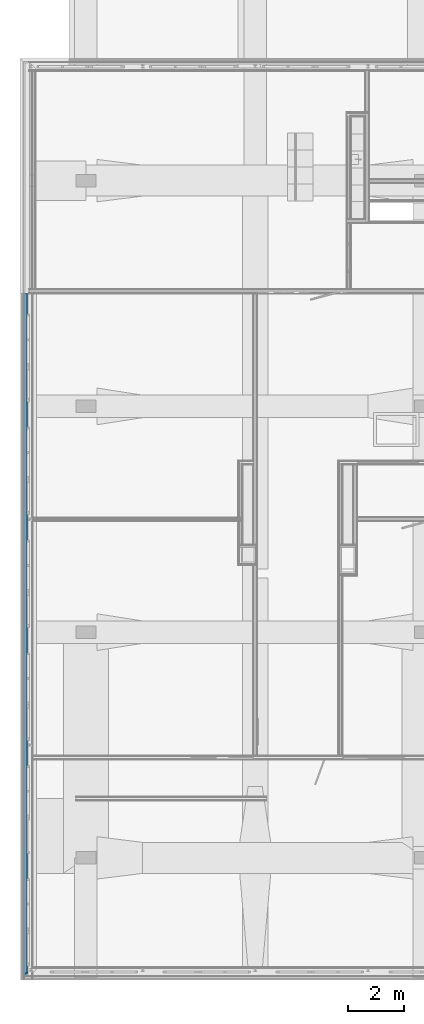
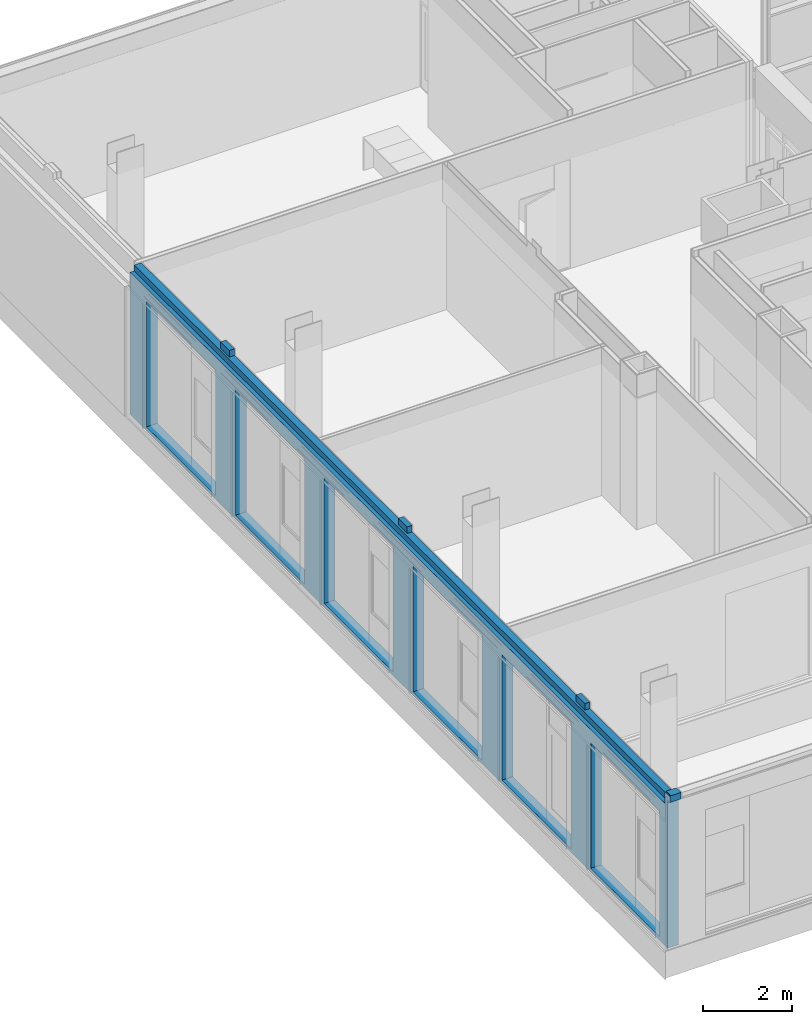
# One storey, part 37 of 94: 1 building element part, 12 openings, 1 element without a shape of its own.
"""IFC2X3 building model written with IfcOpenShell, lengths in millimetres."""

from ifc_helpers import new_model, entity, si_unit, converted_unit, derived_unit, money_unit, direction, frame, origin_with_axes, place, context, subcontext, project, spatial, faceted_brep, material, type_object, element, aggregate, save


model = new_model("IFC2X3")

# Units and contexts
model_context = context("Model", 3, precision=0.01, world=origin_with_axes(), true_north=direction((0.0, 1.0)))
body_context = subcontext(model_context, "Body", "Model", "MODEL_VIEW")
ifc_project = project(units=[si_unit("LENGTHUNIT", "METRE", prefix="MILLI"), si_unit("AREAUNIT", "SQUARE_METRE"), si_unit("VOLUMEUNIT", "CUBIC_METRE"), converted_unit("PLANEANGLEUNIT", "DEGREE", entity("IfcPlaneAngleMeasure", 0.0174532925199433), si_unit("PLANEANGLEUNIT", "RADIAN"), dimensions=[0, 0, 0, 0, 0, 0, 0]), money_unit("EUR"), converted_unit("TIMEUNIT", "Year", entity("IfcTimeMeasure", 31557600.0), si_unit("TIMEUNIT", "SECOND"), dimensions=[0, 0, 1, 0, 0, 0, 0]), si_unit("MASSUNIT", "GRAM", prefix="KILO"), si_unit("THERMODYNAMICTEMPERATUREUNIT", "DEGREE_CELSIUS"), si_unit("LUMINOUSINTENSITYUNIT", "LUMEN"), si_unit("ENERGYUNIT", "JOULE", prefix="MEGA"), derived_unit("THERMALCONDUCTANCEUNIT", [(si_unit("POWERUNIT", "WATT"), 1), (si_unit("LENGTHUNIT", "METRE"), -1), (si_unit("THERMODYNAMICTEMPERATUREUNIT", "KELVIN"), -1)]), derived_unit("SPECIFICHEATCAPACITYUNIT", [(si_unit("ENERGYUNIT", "JOULE"), 1), (si_unit("MASSUNIT", "GRAM", prefix="KILO"), -1), (si_unit("THERMODYNAMICTEMPERATUREUNIT", "KELVIN"), -1)]), derived_unit("MASSDENSITYUNIT", [(si_unit("MASSUNIT", "GRAM", prefix="KILO"), 1), (si_unit("VOLUMEUNIT", "CUBIC_METRE"), -1)])], contexts=[model_context])

# Site, building, storey
site_placement = place(None, origin_with_axes())
site = spatial("IfcSite", under=ifc_project, at=site_placement, Name="<site naam>", CompositionType="ELEMENT")
building_placement = place(site_placement, origin_with_axes())
building = spatial("IfcBuilding", under=site, at=building_placement, Name="<Naam gebouw>", CompositionType="ELEMENT")
storey_placement = place(building_placement, frame((0.0, 0.0, 4250.0), z_axis=(0.0, 0.0, 1.0), x_axis=(1.0, 0.0, 0.0)))
storey = spatial("IfcBuildingStorey", under=building, at=storey_placement, Name="01 1e verdieping", CompositionType="ELEMENT", Elevation=4250.0)

# Wall, openings, building element part
wall_type = type_object("IfcWallType", Name="HSB_285 gevelbeplating 420", PredefinedType="NOTDEFINED")
wall_placement = place(storey_placement, frame((-12297.99999999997, 12000.00000000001, 0.0), z_axis=(0.0, 0.0, 1.0), x_axis=(0.0, -1.0, 0.0)))
wall = element("IfcWall", 1, at=wall_placement, inside=storey, type_object=wall_type, Name="21_Binnenwand_HSB_285")
opening_1_placement = place(wall_placement, frame((21651.5, 0.0, 99.99999999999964), z_axis=(0.0, 0.0, 1.0), x_axis=(1.0, 0.0, 0.0)))
element("IfcOpeningElement", 2, at=opening_1_placement, cuts=wall, Name="21_BU-A-12a_305", context=body_context, shape_type="Brep", body=[
    faceted_brep([(918.4999999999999, 212.9999999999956, 3450.0), (-918.4999999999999, 212.9999999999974, 3450.0), (-918.4999999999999, -0.9999999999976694, 3450.0), (918.4999999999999, -0.9999999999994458, 3450.0), (918.4999999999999, 421.0000000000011, 3450.0), (-918.4999999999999, 421.000000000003, 3450.0), (-918.4999999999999, 212.9999999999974, 0.0), (-918.4999999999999, -0.9999999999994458, 0.0), (918.4999999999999, -0.9999999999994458, 0.0), (918.4999999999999, 212.9999999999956, 0.0), (918.4999999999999, 421.0000000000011, 0.0), (-918.4999999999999, 421.000000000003, 0.0)], [[[0, 1, 2, 3]], [[1, 0, 4, 5]], [[1, 6, 7, 2]], [[2, 7, 8, 3]], [[9, 0, 3, 8]], [[0, 9, 10, 4]], [[4, 10, 11, 5]], [[6, 1, 5, 11]], [[6, 9, 8, 7]], [[9, 6, 11, 10]]]),
])
opening_2_placement = place(wall_placement, frame((23203.5, 0.0, 99.99999999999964), z_axis=(0.0, 0.0, 1.0), x_axis=(1.0, 0.0, 0.0)))
element("IfcOpeningElement", 3, at=opening_2_placement, cuts=wall, Name="21_BU-A-12b_305", context=body_context, shape_type="Brep", body=[
    faceted_brep([(633.4999999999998, 212.9999999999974, 3450.0), (-633.4999999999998, 212.9999999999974, 3450.0), (-633.4999999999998, -0.9999999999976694, 3450.0), (633.4999999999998, -0.9999999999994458, 3450.0), (633.4999999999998, 421.0000000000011, 3450.0), (-633.4999999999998, 421.0000000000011, 3450.0), (-633.4999999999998, 212.9999999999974, 0.0), (-633.4999999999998, -0.9999999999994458, 0.0), (633.4999999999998, -0.9999999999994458, 0.0), (633.4999999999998, 212.9999999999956, 0.0), (633.4999999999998, 420.9999999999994, 0.0), (-633.4999999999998, 421.0000000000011, 0.0)], [[[0, 1, 2, 3]], [[1, 0, 4, 5]], [[1, 6, 7, 2]], [[2, 7, 8, 3]], [[9, 0, 3, 8]], [[0, 9, 10, 4]], [[4, 10, 11, 5]], [[6, 1, 5, 11]], [[6, 9, 8, 7]], [[9, 6, 11, 10]]]),
])
opening_3_placement = place(wall_placement, frame((13651.49999999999, 0.0, 99.99999999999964), z_axis=(0.0, 0.0, 1.0), x_axis=(1.0, 0.0, 0.0)))
element("IfcOpeningElement", 4, at=opening_3_placement, cuts=wall, Name="21_BU-A-12a_305", context=body_context, shape_type="Brep", body=[
    faceted_brep([(918.4999999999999, 212.9999999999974, 3450.0), (-918.5, 212.9999999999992, 3450.0), (-918.5, -1.000000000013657, 3450.0), (918.4999999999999, -1.000000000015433, 3450.0), (918.4999999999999, 421.00000000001, 3450.0), (-918.5, 421.0000000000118, 3450.0), (-918.5, 212.9999999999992, 0.0), (-918.5, -1.000000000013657, 0.0), (918.4999999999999, -1.000000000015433, 0.0), (918.4999999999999, 212.9999999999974, 0.0), (918.4999999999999, 421.00000000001, 0.0), (-918.5, 421.0000000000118, 0.0)], [[[0, 1, 2, 3]], [[1, 0, 4, 5]], [[1, 6, 7, 2]], [[2, 7, 8, 3]], [[9, 0, 3, 8]], [[0, 9, 10, 4]], [[4, 10, 11, 5]], [[6, 1, 5, 11]], [[6, 9, 8, 7]], [[9, 6, 11, 10]]]),
])
opening_4_placement = place(wall_placement, frame((15203.49999999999, 0.0, 99.99999999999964), z_axis=(0.0, 0.0, 1.0), x_axis=(1.0, 0.0, 0.0)))
element("IfcOpeningElement", 5, at=opening_4_placement, cuts=wall, Name="21_BU-A-12b_305", context=body_context, shape_type="Brep", body=[
    faceted_brep([(633.4999999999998, 212.9999999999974, 3450.0), (-633.4999999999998, 212.9999999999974, 3450.0), (-633.4999999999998, -0.9999999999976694, 3450.0), (633.4999999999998, -0.9999999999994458, 3450.0), (633.4999999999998, 421.0000000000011, 3450.0), (-633.4999999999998, 421.0000000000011, 3450.0), (-633.4999999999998, 212.9999999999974, 0.0), (-633.4999999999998, -0.9999999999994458, 0.0), (633.4999999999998, -0.9999999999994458, 0.0), (633.4999999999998, 212.9999999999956, 0.0), (633.4999999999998, 420.9999999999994, 0.0), (-633.4999999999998, 421.0000000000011, 0.0)], [[[0, 1, 2, 3]], [[1, 0, 4, 5]], [[1, 6, 7, 2]], [[2, 7, 8, 3]], [[9, 0, 3, 8]], [[0, 9, 10, 4]], [[4, 10, 11, 5]], [[6, 1, 5, 11]], [[6, 9, 8, 7]], [[9, 6, 11, 10]]]),
])
opening_5_placement = place(wall_placement, frame((11203.48397384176, 0.0, 99.99999999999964), z_axis=(0.0, 0.0, 1.0), x_axis=(1.0, 0.0, 0.0)))
element("IfcOpeningElement", 6, at=opening_5_placement, cuts=wall, Name="21_BU-A-12b_305", context=body_context, shape_type="Brep", body=[
    faceted_brep([(633.5, 212.9999999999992, 3450.0), (-633.5, 212.9999999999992, 3450.0), (-633.5, -1.000000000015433, 3450.0), (633.5, -1.000000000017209, 3450.0), (633.5, 421.0000000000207, 3450.0), (-633.5, 421.0000000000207, 3450.0), (-633.5, 212.9999999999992, 0.0), (-633.5, -1.000000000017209, 0.0), (633.5, -1.000000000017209, 0.0), (633.5, 212.9999999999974, 0.0), (633.5, 421.0000000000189, 0.0), (-633.5, 421.0000000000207, 0.0)], [[[0, 1, 2, 3]], [[1, 0, 4, 5]], [[1, 6, 7, 2]], [[2, 7, 8, 3]], [[9, 0, 3, 8]], [[0, 9, 10, 4]], [[4, 10, 11, 5]], [[6, 1, 5, 11]], [[6, 9, 8, 7]], [[9, 6, 11, 10]]]),
])
opening_6_placement = place(wall_placement, frame((5651.499999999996, 0.0, 99.99999999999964), z_axis=(0.0, 0.0, 1.0), x_axis=(1.0, 0.0, 0.0)))
element("IfcOpeningElement", 7, at=opening_6_placement, cuts=wall, Name="21_BU-A-12a_305", context=body_context, shape_type="Brep", body=[
    faceted_brep([(918.4999999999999, 212.9999999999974, 3450.0), (-918.4999999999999, 212.9999999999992, 3450.0), (-918.4999999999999, -1.000000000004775, 3450.0), (918.4999999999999, -1.000000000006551, 3450.0), (918.4999999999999, 421.0000000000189, 3450.0), (-918.4999999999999, 421.0000000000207, 3450.0), (-918.4999999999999, 212.9999999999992, 0.0), (-918.4999999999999, -1.000000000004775, 0.0), (918.4999999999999, -1.000000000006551, 0.0), (918.4999999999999, 212.9999999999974, 0.0), (918.4999999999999, 421.0000000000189, 0.0), (-918.4999999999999, 421.0000000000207, 0.0)], [[[0, 1, 2, 3]], [[1, 0, 4, 5]], [[1, 6, 7, 2]], [[2, 7, 8, 3]], [[9, 0, 3, 8]], [[0, 9, 10, 4]], [[4, 10, 11, 5]], [[6, 1, 5, 11]], [[6, 9, 8, 7]], [[9, 6, 11, 10]]]),
])
opening_7_placement = place(wall_placement, frame((7203.499999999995, 0.0, 99.99999999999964), z_axis=(0.0, 0.0, 1.0), x_axis=(1.0, 0.0, 0.0)))
element("IfcOpeningElement", 8, at=opening_7_placement, cuts=wall, Name="21_BU-A-12b_305", context=body_context, shape_type="Brep", body=[
    faceted_brep([(633.4999999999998, 212.9999999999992, 3450.0), (-633.4999999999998, 212.9999999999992, 3450.0), (-633.4999999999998, -1.000000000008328, 3450.0), (633.4999999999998, -1.000000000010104, 3450.0), (633.4999999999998, 421.0000000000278, 3450.0), (-633.4999999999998, 421.0000000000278, 3450.0), (-633.4999999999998, 212.9999999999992, 0.0), (-633.4999999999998, -1.000000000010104, 0.0), (633.4999999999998, -1.000000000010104, 0.0), (633.4999999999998, 212.9999999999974, 0.0), (633.4999999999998, 421.000000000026, 0.0), (-633.4999999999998, 421.0000000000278, 0.0)], [[[0, 1, 2, 3]], [[1, 0, 4, 5]], [[1, 6, 7, 2]], [[2, 7, 8, 3]], [[9, 0, 3, 8]], [[0, 9, 10, 4]], [[4, 10, 11, 5]], [[6, 1, 5, 11]], [[6, 9, 8, 7]], [[9, 6, 11, 10]]]),
])
opening_8_placement = place(wall_placement, frame((9651.48397384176, 0.0, 99.99999999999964), z_axis=(0.0, 0.0, 1.0), x_axis=(1.0, 0.0, 0.0)))
element("IfcOpeningElement", 9, at=opening_8_placement, cuts=wall, Name="21_BU-A-12a_305", context=body_context, shape_type="Brep", body=[
    faceted_brep([(918.4999999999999, 212.9999999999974, 3450.0), (-918.4999999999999, 212.9999999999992, 3450.0), (-918.4999999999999, -1.000000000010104, 3450.0), (918.4999999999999, -1.00000000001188, 3450.0), (918.4999999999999, 421.0000000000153, 3450.0), (-918.4999999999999, 421.0000000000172, 3450.0), (-918.4999999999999, 212.9999999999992, 0.0), (-918.4999999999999, -1.000000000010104, 0.0), (918.4999999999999, -1.00000000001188, 0.0), (918.4999999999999, 212.9999999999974, 0.0), (918.4999999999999, 421.0000000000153, 0.0), (-918.4999999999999, 421.0000000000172, 0.0)], [[[0, 1, 2, 3]], [[1, 0, 4, 5]], [[1, 6, 7, 2]], [[2, 7, 8, 3]], [[9, 0, 3, 8]], [[0, 9, 10, 4]], [[4, 10, 11, 5]], [[6, 1, 5, 11]], [[6, 9, 8, 7]], [[9, 6, 11, 10]]]),
])
opening_9_placement = place(wall_placement, frame((1651.483973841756, 0.0, 99.99999999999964), z_axis=(0.0, 0.0, 1.0), x_axis=(1.0, 0.0, 0.0)))
element("IfcOpeningElement", 10, at=opening_9_placement, cuts=wall, Name="21_BU-A-12a_305", context=body_context, shape_type="Brep", body=[
    faceted_brep([(918.4999999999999, 212.9999999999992, 3450.0), (-918.4999999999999, 213.000000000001, 3450.0), (-918.4999999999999, -0.9999999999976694, 3450.0), (918.4999999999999, -0.9999999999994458, 3450.0), (918.4999999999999, 421.0000000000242, 3450.0), (-918.4999999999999, 421.000000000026, 3450.0), (-918.4999999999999, 213.000000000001, 0.0), (-918.4999999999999, -0.9999999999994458, 0.0), (918.4999999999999, -0.9999999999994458, 0.0), (918.4999999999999, 212.9999999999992, 0.0), (918.4999999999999, 421.0000000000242, 0.0), (-918.4999999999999, 421.000000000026, 0.0)], [[[0, 1, 2, 3]], [[1, 0, 4, 5]], [[1, 6, 7, 2]], [[2, 7, 8, 3]], [[9, 0, 3, 8]], [[0, 9, 10, 4]], [[4, 10, 11, 5]], [[6, 1, 5, 11]], [[6, 9, 8, 7]], [[9, 6, 11, 10]]]),
])
opening_10_placement = place(wall_placement, frame((17651.5, 0.0, 99.99999999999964), z_axis=(0.0, 0.0, 1.0), x_axis=(1.0, 0.0, 0.0)))
element("IfcOpeningElement", 11, at=opening_10_placement, cuts=wall, Name="21_BU-A-12a_305", context=body_context, shape_type="Brep", body=[
    faceted_brep([(918.4999999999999, 212.9999999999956, 3450.0), (-918.4999999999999, 212.9999999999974, 3450.0), (-918.4999999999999, -0.9999999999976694, 3450.0), (918.4999999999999, -0.9999999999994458, 3450.0), (918.4999999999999, 421.0000000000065, 3450.0), (-918.4999999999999, 421.0000000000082, 3450.0), (-918.4999999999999, 212.9999999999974, 0.0), (-918.4999999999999, -0.9999999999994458, 0.0), (918.4999999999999, -0.9999999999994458, 0.0), (918.4999999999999, 212.9999999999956, 0.0), (918.4999999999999, 421.0000000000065, 0.0), (-918.4999999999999, 421.0000000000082, 0.0)], [[[0, 1, 2, 3]], [[1, 0, 4, 5]], [[1, 6, 7, 2]], [[2, 7, 8, 3]], [[9, 0, 3, 8]], [[0, 9, 10, 4]], [[4, 10, 11, 5]], [[6, 1, 5, 11]], [[6, 9, 8, 7]], [[9, 6, 11, 10]]]),
])
opening_11_placement = place(wall_placement, frame((3203.483973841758, 0.0, 99.99999999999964), z_axis=(0.0, 0.0, 1.0), x_axis=(1.0, 0.0, 0.0)))
element("IfcOpeningElement", 12, at=opening_11_placement, cuts=wall, Name="21_BU-A-12b_305", context=body_context, shape_type="Brep", body=[
    faceted_brep([(633.4999999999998, 213.000000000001, 3450.0), (-633.4999999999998, 213.000000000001, 3450.0), (-633.4999999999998, -0.9999999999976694, 3450.0), (633.4999999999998, -0.9999999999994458, 3450.0), (633.4999999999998, 421.0000000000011, 3450.0), (-633.4999999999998, 421.0000000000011, 3450.0), (-633.4999999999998, 213.000000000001, 0.0), (-633.4999999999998, -0.9999999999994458, 0.0), (633.4999999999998, -0.9999999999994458, 0.0), (633.4999999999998, 212.9999999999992, 0.0), (633.4999999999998, 420.9999999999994, 0.0), (-633.4999999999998, 421.0000000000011, 0.0)], [[[0, 1, 2, 3]], [[1, 0, 4, 5]], [[1, 6, 7, 2]], [[2, 7, 8, 3]], [[9, 0, 3, 8]], [[0, 9, 10, 4]], [[4, 10, 11, 5]], [[6, 1, 5, 11]], [[6, 9, 8, 7]], [[9, 6, 11, 10]]]),
])
opening_12_placement = place(wall_placement, frame((19203.51614474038, 0.0, 102.9999634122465), z_axis=(0.0, 0.0, 1.0), x_axis=(1.0, 0.0, 0.0)))
element("IfcOpeningElement", 13, at=opening_12_placement, cuts=wall, Name="21_BU-A-12c_305", context=body_context, shape_type="Brep", body=[
    faceted_brep([(633.504886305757, 204.9999999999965, 3454.0), (-633.504886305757, 204.9999999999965, 3454.0), (-633.504886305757, -0.9999999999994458, 3454.0), (633.504886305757, -0.9999999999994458, 3454.0), (633.504886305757, 420.9999999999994, 3454.0), (-633.504886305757, 420.9999999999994, 3454.0), (-633.504886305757, 204.9999999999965, 0.0), (-633.504886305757, -0.9999999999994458, 0.0), (633.504886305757, -0.9999999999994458, 0.0), (633.504886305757, 204.9999999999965, 0.0), (633.504886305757, 420.9999999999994, 0.0), (-633.504886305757, 420.9999999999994, 0.0)], [[[0, 1, 2, 3]], [[1, 0, 4, 5]], [[1, 6, 7, 2]], [[2, 7, 8, 3]], [[9, 0, 3, 8]], [[0, 9, 10, 4]], [[4, 10, 11, 5]], [[6, 1, 5, 11]], [[6, 9, 8, 7]], [[9, 6, 11, 10]]]),
])
ifc_material = material(Name="isolatie_houtvezel")
building_element_part_placement = place(wall_placement, origin_with_axes())
building_element_part = element("IfcBuildingElementPart", 14, at=building_element_part_placement, material=ifc_material, Name="isolatie_houtvezel", context=body_context, shape_type="Brep", body=[
    faceted_brep([(24082.49008809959, 106.9999999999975, 4220.000040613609), (24082.49008809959, 133.0000071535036, 4220.000040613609), (24082.49008809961, 133.0000071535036, 4249.999998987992), (24082.49008809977, 391.9999999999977, 4249.999998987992), (24082.49008809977, 391.9999999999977, 4070.000000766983), (24082.49008809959, 209.4993478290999, 4070.000000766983), (24082.49008809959, 209.4993478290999, 3909.999659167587), (24082.49008809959, 106.9999999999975, 3909.999659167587), (24274.99008809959, 106.9999999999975, 4220.000040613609), (24274.99008809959, 133.0000071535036, 4220.000040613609), (24274.99008809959, 133.0000071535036, 4249.99999897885), (24274.99008809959, 106.9999999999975, 4249.999998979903), (24300.03170931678, 106.9999999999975, 4249.99999897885), (24300.03170931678, 391.9999999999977, 4249.99999897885), (20200.0, 391.9999999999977, 4249.999999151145), (20200.0, 391.9999999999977, 4070.000000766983), (24300.03170931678, 391.9999999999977, 4070.000000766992), (24193.03170931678, 391.9999999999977, 4070.000000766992), (24193.03170931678, 391.9999999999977, 0.0), (24015.5, 391.9999999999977, 0.0), (24015.5, 391.9999999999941, 3609.99927844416), (24017.53030818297, 391.9999999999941, 3609.99927844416), (24017.53014102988, 391.9999999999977, 3618.499636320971), (24015.5, 391.9999999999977, 3618.499636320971), (24015.5, 391.9999999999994, 3789.999753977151), (24007.49999751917, 391.9999999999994, 3789.999753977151), (24007.49999751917, 391.9999999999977, 3618.499636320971), (23970.32990173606, 391.9999999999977, 3618.49963632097), (23970.32990173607, 391.9999999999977, 3801.499799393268), (24017.53014102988, 391.9999999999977, 3801.499799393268), (24017.53030818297, 391.9999999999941, 3809.999956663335), (23917.52942613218, 391.9999999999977, 3809.999956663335), (23917.52959328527, 391.9999999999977, 3801.499799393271), (23964.72983257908, 391.9999999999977, 3801.499799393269), (23964.72983257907, 391.9999999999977, 3618.499636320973), (23927.50000157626, 391.9999999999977, 3618.499636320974), (23927.50000157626, 391.9999999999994, 3789.999753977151), (23919.49999909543, 391.9999999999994, 3789.999753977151), (23919.49999909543, 391.9999999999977, 3618.499636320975), (23917.52959328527, 391.9999999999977, 3618.499636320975), (23917.52942613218, 391.9999999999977, 3609.99927844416), (23919.49999909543, 391.9999999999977, 3609.99927844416), (23919.49999909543, 391.9999999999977, 0.0), (16526.56515943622, 391.9999999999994, 0.0), (16526.56515943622, 391.9999999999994, 3.000000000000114), (-0.0005925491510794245, 391.9999999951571, 3.000000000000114), (-2.511392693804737e-05, 391.9999999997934, 4070.000000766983), (3799.999999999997, 391.9999999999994, 4070.000000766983), (3799.999999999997, 391.9999999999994, 4249.999999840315), (4199.999999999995, 391.9999999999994, 4249.999999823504), (4199.999999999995, 391.9999999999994, 4070.000000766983), (11800.0, 391.9999999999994, 4070.000000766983), (11800.0, 391.9999999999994, 4249.999999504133), (12200.0, 391.9999999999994, 4249.999999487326), (12200.0, 391.9999999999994, 4070.000000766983), (19800.0, 391.9999999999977, 4070.000000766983), (19800.0, 391.9999999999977, 4249.999999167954), (-5.334631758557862e-05, 209.4993478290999, 4070.000000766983), (20200.0, 262.9999999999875, 4070.000000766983), (19800.0, 262.9999999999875, 4070.000000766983), (12200.0, 262.9999999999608, 4070.000000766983), (11800.0, 262.9999999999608, 4070.000000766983), (4199.999999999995, 262.9999999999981, 4070.000000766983), (3799.999999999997, 262.9999999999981, 4070.000000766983), (0.0, 209.4993478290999, 3909.999659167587), (0.0, 107.0000000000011, 3909.999659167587), (0.0, 107.0000000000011, 3809.999956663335), (24017.53030818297, 106.9999999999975, 3809.999956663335), (24017.53014102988, 106.9999999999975, 3801.499799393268), (0.0, 107.0000000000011, 3801.499799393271), (0.0, 107.0000000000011, 3618.499636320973), (24017.53014102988, 106.9999999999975, 3618.499636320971), (24017.53030818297, 106.9999999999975, 3609.99927844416), (0.0, 107.0000000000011, 3609.99927844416), (0.0, 106.9999999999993, 0.0), (24193.03170931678, 106.9999999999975, 0.0), (24193.03170931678, 106.9999999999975, 4070.000000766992), (24300.03170931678, 106.9999999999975, 4070.000000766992), (20200.0, 262.9999999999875, 4249.99999897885), (23927.50000157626, 361.5748706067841, 0.0), (24007.49999751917, 361.5748706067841, 0.0), (24007.49999751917, 314.0748704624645, 0.0), (24015.5, 314.0748705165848, 0.0), (-6.135969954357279e-05, 327.0000000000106, 0.0), (7997.500000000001, 327.4838408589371, 0.0), (7997.500000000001, 290.5000024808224, 0.0), (7949.999999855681, 290.5000024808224, 0.0), (7949.9999999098, 282.5000000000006, 0.0), (8050.000000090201, 282.5000000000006, 0.0), (8050.000000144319, 290.5000024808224, 0.0), (8002.500000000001, 290.5000024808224, 0.0), (8002.500000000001, 327.4841433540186, 0.0), (15997.5, 327.9678329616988, 0.0), (15997.5, 290.5000024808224, 0.0), (15949.99999985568, 290.5000024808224, 0.0), (15949.9999999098, 282.5000000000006, 0.0), (16050.0000000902, 282.5000000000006, 0.0), (16050.00000014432, 290.5000024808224, 0.0), (16002.5, 290.5000024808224, 0.0), (16002.5, 327.9681354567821, 0.0), (16526.56515943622, 327.9998408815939, 0.0), (23919.49999909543, 314.0748705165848, 0.0), (23927.50000157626, 314.0748704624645, 0.0), (24015.5, 314.0748705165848, 3609.999278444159), (24007.49999751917, 314.0748704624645, 3609.999278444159), (24007.49999751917, 361.5748706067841, 3609.999278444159), (23927.50000157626, 361.5748706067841, 3609.999278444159), (23927.50000157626, 314.0748704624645, 3609.999278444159), (23919.49999909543, 314.0748705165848, 3609.999278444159), (23917.52942613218, 202.9994706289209, 3609.99927844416), (-6.135969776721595e-05, 202.9994706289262, 3609.99927844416), (23970.32990173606, 361.5748703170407, 3618.49963632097), (24007.49999751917, 361.5748706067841, 3618.499636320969), (24007.49999751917, 314.0748704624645, 3618.499636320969), (24015.5, 314.0748705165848, 3618.499636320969), (-6.135969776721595e-05, 150.1989950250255, 3618.499636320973), (23970.32990173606, 150.1989950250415, 3618.49963632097), (24015.5, 314.0748705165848, 3789.999753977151), (23970.32990173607, 361.5748706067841, 3789.999753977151), (23970.32990173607, 366.5748706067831, 3789.999753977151), (24007.49999751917, 366.5748706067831, 3789.999753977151), (24007.49999751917, 314.0748704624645, 3789.999753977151), (24007.49999751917, 361.5748706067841, 3789.999753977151), (24007.49999751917, 366.5748706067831, 3618.499636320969), (23970.32990173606, 366.574870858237, 3618.49963632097), (23970.32990173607, 150.1989950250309, 3801.499799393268), (-6.135969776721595e-05, 150.1989950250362, 3801.499799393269), (-6.135969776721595e-05, 202.9994706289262, 3809.999956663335), (23917.52942613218, 202.9994706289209, 3809.999956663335), (23917.52959328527, 202.9993034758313, 3801.499799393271), (-6.135969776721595e-05, 202.9993034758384, 3801.499799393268), (-6.135969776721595e-05, 155.7990641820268, 3801.499799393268), (23964.72983257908, 155.7990641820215, 3801.499799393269), (23964.72983257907, 155.7990641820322, 3618.499636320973), (23964.72983257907, 361.5748703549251, 3618.499636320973), (23964.72983257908, 361.5748706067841, 3789.999753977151), (23964.72983257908, 366.5748706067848, 3789.999753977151), (23964.72983257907, 366.5748708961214, 3618.499636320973), (23927.50000157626, 366.5748706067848, 3618.499636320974), (23927.50000157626, 366.5748706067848, 3789.999753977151), (23927.50000157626, 361.5748706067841, 3789.999753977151), (23927.50000157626, 314.0748704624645, 3789.999753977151), (23919.49999909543, 314.0748705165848, 3789.999753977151), (23919.49999909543, 314.0748705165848, 3618.499636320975), (23927.50000157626, 314.0748704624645, 3618.499636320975), (23927.50000157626, 361.5748706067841, 3618.499636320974), (-6.135969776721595e-05, 155.7990641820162, 3618.49963632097), (-6.135969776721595e-05, 202.9993034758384, 3618.499636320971), (23917.52959328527, 202.9993034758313, 3618.499636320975), (16526.56515943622, 327.9998408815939, 3.000000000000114), (16002.50000025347, 327.9681354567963, 3.000000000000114), (16002.5, 370.499998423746, 3.000000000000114), (16050.00000014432, 370.499998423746, 3.000000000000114), (16050.0000000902, 378.5000009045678, 3.000000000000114), (15949.9999999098, 378.5000009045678, 3.000000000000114), (15949.99999985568, 370.499998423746, 3.000000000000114), (15997.5, 370.499998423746, 3.000000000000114), (15997.49999971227, 327.9678329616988, 3.000000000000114), (8002.500000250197, 327.4841433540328, 3.000000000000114), (8002.500000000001, 370.499998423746, 3.000000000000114), (8050.000000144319, 370.499998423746, 3.000000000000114), (8050.000000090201, 378.5000009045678, 3.000000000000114), (7949.9999999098, 378.5000009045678, 3.000000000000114), (7949.999999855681, 370.499998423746, 3.000000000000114), (7997.500000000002, 370.499998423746, 3.000000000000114), (7997.499999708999, 327.4838408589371, 3.000000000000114), (-6.135969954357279e-05, 327.0000000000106, 3.000000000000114), (3799.999999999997, 262.9999999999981, 4249.99999897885), (4199.999999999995, 262.9999999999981, 4249.99999897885), (11800.0, 262.9999999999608, 4249.99999897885), (12200.0, 262.9999999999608, 4249.99999897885), (19800.0, 262.9999999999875, 4249.99999897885), (7997.500000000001, 290.5000024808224, 3789.999753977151), (7997.500000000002, 370.499998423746, 3789.999753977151), (7949.999999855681, 290.5000024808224, 3789.999753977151), (7949.9999999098, 282.5000000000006, 3789.999753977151), (8050.000000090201, 282.5000000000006, 3789.999753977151), (8050.000000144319, 290.5000024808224, 3789.999753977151), (8002.500000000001, 290.5000024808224, 3789.999753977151), (8002.500000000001, 370.499998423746, 3789.999753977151), (15997.5, 290.5000024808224, 3789.999753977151), (15997.5, 370.499998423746, 3789.999753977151), (15949.99999985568, 290.5000024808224, 3789.999753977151), (15949.9999999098, 282.5000000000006, 3789.999753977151), (16050.0000000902, 282.5000000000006, 3789.999753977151), (16050.00000014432, 290.5000024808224, 3789.999753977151), (16002.5, 290.5000024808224, 3789.999753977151), (16002.5, 370.499998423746, 3789.999753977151), (16050.00000014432, 370.499998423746, 3789.999753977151), (16050.0000000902, 378.5000009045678, 3789.999753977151), (15949.9999999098, 378.5000009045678, 3789.999753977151), (15949.99999985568, 370.499998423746, 3789.999753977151), (8050.000000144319, 370.499998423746, 3789.999753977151), (8050.000000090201, 378.5000009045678, 3789.999753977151), (7949.9999999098, 378.5000009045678, 3789.999753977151), (7949.999999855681, 370.499998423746, 3789.999753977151)], [[[0, 1, 2, 3, 4, 5, 6, 7]], [[1, 0, 8, 9]], [[10, 2, 1, 9]], [[10, 11, 12, 13, 3, 2]], [[14, 15, 4, 3, 13, 16, 17, 18, 19, 20, 21, 22, 23, 24, 25, 26, 27, 28, 29, 30, 31, 32, 33, 34, 35, 36, 37, 38, 39, 40, 41, 42, 43, 44, 45, 46, 47, 48, 49, 50, 51, 52, 53, 54, 55, 56]], [[46, 57, 5, 4, 15, 58, 59, 55, 54, 60, 61, 51, 50, 62, 63, 47]], [[6, 5, 57, 64]], [[6, 64, 65, 7]], [[8, 0, 7, 65, 66, 67, 68, 69, 70, 71, 72, 73, 74, 75, 76, 77, 12, 11]], [[11, 10, 9, 8]], [[13, 12, 77, 16]], [[78, 58, 15, 14]], [[16, 77, 76, 17]], [[76, 75, 18, 17]], [[79, 80, 81, 82, 19, 18, 75, 74, 83, 84, 85, 86, 87, 88, 89, 90, 91, 92, 93, 94, 95, 96, 97, 98, 99, 100, 43, 42, 101, 102]], [[20, 19, 82, 103]], [[104, 105, 106, 107, 108, 41, 40, 109, 110, 73, 72, 21, 20, 103]], [[22, 21, 72, 71]], [[111, 112, 113, 114, 23, 22, 71, 70, 115, 116]], [[23, 114, 117, 24]], [[118, 119, 120, 25, 24, 117, 121, 122]], [[25, 120, 123, 26]], [[124, 27, 26, 123]], [[27, 124, 119, 118, 111, 116, 125, 28]], [[28, 125, 126, 69, 68, 29]], [[30, 29, 68, 67]], [[30, 67, 66, 127, 128, 31]], [[32, 31, 128, 129]], [[32, 129, 130, 131, 132, 33]], [[133, 134, 135, 136, 137, 34, 33, 132]], [[35, 34, 137, 138]], [[35, 138, 139, 36]], [[140, 141, 142, 37, 36, 139, 136, 135]], [[37, 142, 143, 38]], [[38, 143, 144, 145, 134, 133, 146, 147, 148, 39]], [[40, 39, 148, 109]], [[41, 108, 101, 42]], [[149, 44, 43, 100]], [[149, 150, 151, 152, 153, 154, 155, 156, 157, 158, 159, 160, 161, 162, 163, 164, 165, 166, 45, 44]], [[66, 65, 64, 57, 46, 45, 166, 83, 74, 73, 110, 147, 146, 131, 130, 127]], [[47, 63, 167, 48]], [[48, 167, 168, 49]], [[168, 62, 50, 49]], [[51, 61, 169, 52]], [[52, 169, 170, 53]], [[170, 60, 54, 53]], [[55, 59, 171, 56]], [[56, 171, 78, 14]], [[59, 58, 78, 171]], [[61, 60, 170, 169]], [[63, 62, 168, 167]], [[115, 70, 69, 126]], [[105, 80, 79, 106]], [[104, 81, 80, 105]], [[103, 82, 81, 104]], [[84, 83, 166, 165]], [[172, 85, 84, 165, 164, 173]], [[85, 172, 174, 86]], [[86, 174, 175, 87]], [[87, 175, 176, 88]], [[88, 176, 177, 89]], [[89, 177, 178, 90]], [[90, 178, 179, 159, 158, 91]], [[92, 91, 158, 157]], [[180, 93, 92, 157, 156, 181]], [[93, 180, 182, 94]], [[94, 182, 183, 95]], [[95, 183, 184, 96]], [[96, 184, 185, 97]], [[97, 185, 186, 98]], [[98, 186, 187, 151, 150, 99]], [[150, 149, 100, 99]], [[107, 102, 101, 108]], [[106, 79, 102, 107]], [[109, 148, 147, 110]], [[118, 122, 112, 111]], [[112, 122, 121, 113]], [[113, 121, 117, 114]], [[125, 116, 115, 126]], [[124, 123, 120, 119]], [[129, 128, 127, 130]], [[133, 132, 131, 146]], [[145, 140, 135, 134]], [[137, 136, 139, 138]], [[144, 141, 140, 145]], [[143, 142, 141, 144]], [[151, 187, 188, 152]], [[152, 188, 189, 153]], [[153, 189, 190, 154]], [[154, 190, 191, 155]], [[155, 191, 181, 156]], [[159, 179, 192, 160]], [[160, 192, 193, 161]], [[161, 193, 194, 162]], [[162, 194, 195, 163]], [[163, 195, 173, 164]], [[178, 177, 176, 175, 174, 172, 173, 195, 194, 193, 192, 179]], [[186, 185, 184, 183, 182, 180, 181, 191, 190, 189, 188, 187]]]),
    faceted_brep([(24007.49999751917, 391.9999999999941, 3609.99927844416), (24007.49999751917, 391.9999999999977, 0.0), (23927.50000157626, 391.9999999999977, 0.0), (23927.50000157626, 391.9999999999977, 3609.99927844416), (24007.49999751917, 366.5748706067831, 3609.999278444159), (24007.49999751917, 366.5748706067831, 0.0), (23927.50000157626, 366.5748706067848, 0.0), (23927.50000157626, 366.5748706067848, 3609.999278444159)], [[[0, 1, 2, 3]], [[1, 0, 4, 5]], [[6, 2, 1, 5]], [[7, 3, 2, 6]], [[4, 0, 3, 7]], [[4, 7, 6, 5]]]),
])
aggregate(wall, [building_element_part])

save(model, "model.ifc")
